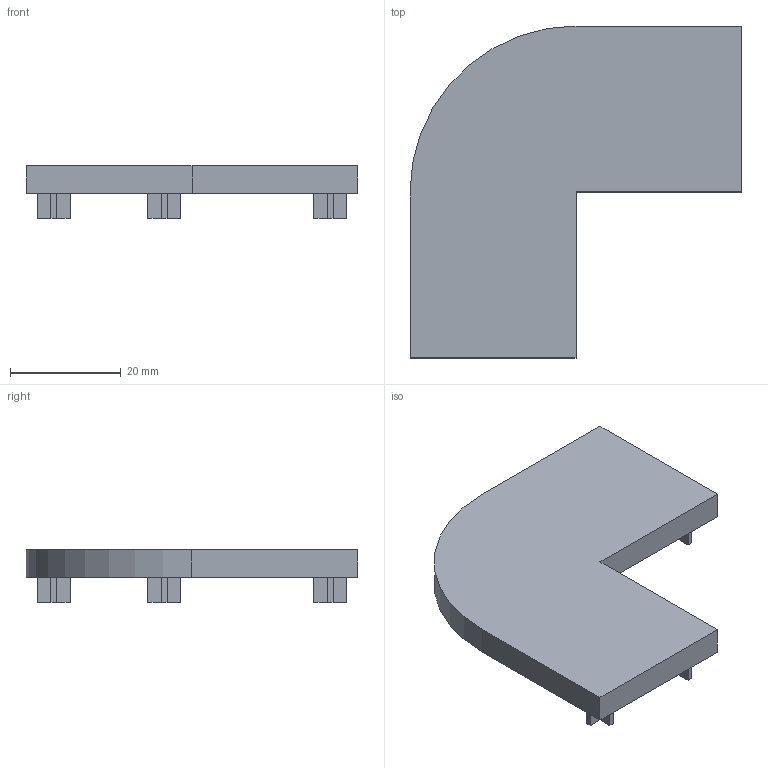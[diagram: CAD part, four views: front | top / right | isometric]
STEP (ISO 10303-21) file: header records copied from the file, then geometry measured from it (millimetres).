
FILE_DESCRIPTION(/* description */ ('Unknown'),/* implementation_level */ '2;1');
FILE_NAME(/* name */ 'CAP6630R',/* time_stamp */ '2026-08-31T14:34:14+08:00',/* author */ ('Unknown'),/* organization */ ('Unknown'),/* preprocessor_version */ 'ST-DEVELOPER v16.7',/* originating_system */ 'DEX',/* authorisation */ $);
FILE_SCHEMA (('AUTOMOTIVE_DESIGN {1 0 10303 214 3 1 1}'));
Length unit declared in the file: millimetre
Products named in the file (1): CAP
Bounding box: 60 x 60 x 9.5 mm (x, y, z)
Volume: 3774.2 mm3; surface area: 7843.5 mm2
Topology: 1 solids, 1 shells, 69 faces, 186 edges, 124 vertices
Faces by surface type: plane 67, cylinder 2
Entity records: 2154 total; most frequent: CARTESIAN_POINT 380, ORIENTED_EDGE 372, DIRECTION 330, EDGE_CURVE 186, LINE 182, VECTOR 182, VERTEX_POINT 124, EDGE_LOOP 74
